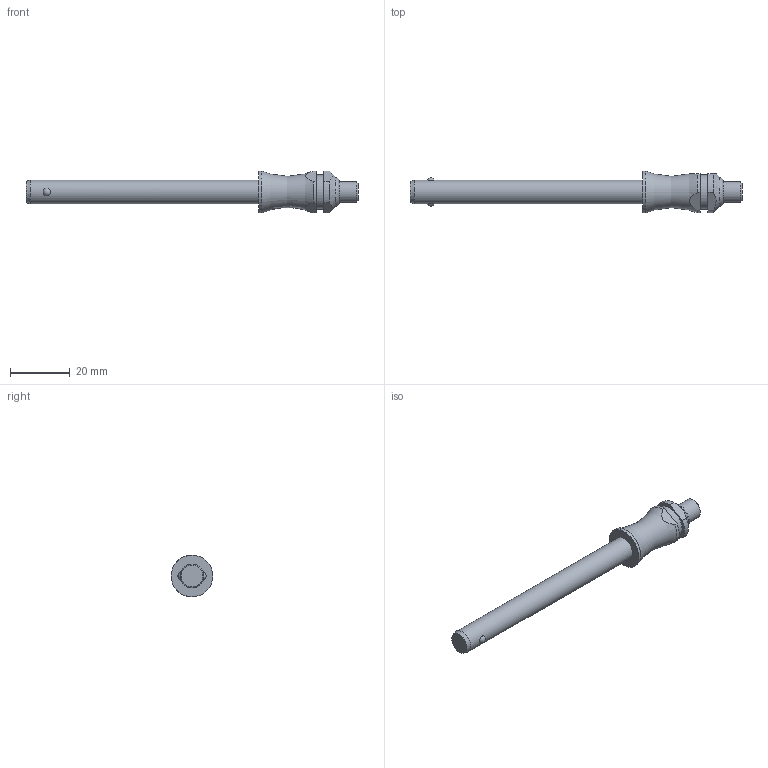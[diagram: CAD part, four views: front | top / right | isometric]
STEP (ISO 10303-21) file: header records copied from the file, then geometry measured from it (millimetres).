
FILE_DESCRIPTION( ( 'STEP AP203' ), '1' );
FILE_NAME( 'C:/Temp/Ganter_Step_05_03_2020/data/3_1/gn113_3/Stainless Steel-Ball lock pin GN 113.3-8-70 (deactivated).stp', '2020-03-12T08:18:27', ( 'License CC BY-ND 4.0' ), ( 'CADENAS' ), ' ', 'PARTsolutions', ' ' );
FILE_SCHEMA( ( 'CONFIG_CONTROL_DESIGN' ) );
Length unit declared in the file: millimetre
Products named in the file (1): _Stainless Steel-Ball lock pin GN 113.3-8-70 (deactivated)
Bounding box: 111.5 x 14 x 14 mm (x, y, z)
Volume: 7150.6 mm3; surface area: 3422.7 mm2
Topology: 1 solids, 1 shells, 28 faces, 60 edges, 39 vertices
Faces by surface type: plane 11, cylinder 10, cone 3, torus 2, sphere 2
Full cylindrical faces by diameter (mm): 7 x1, 8 x1, 11.6 x1, 14 x1
Entity records: 916 total; most frequent: CARTESIAN_POINT 303, DIRECTION 122, ORIENTED_EDGE 98, AXIS2_PLACEMENT_3D 52, EDGE_CURVE 49, EDGE_LOOP 42, VERTEX_POINT 37, FACE_OUTER_BOUND 34
